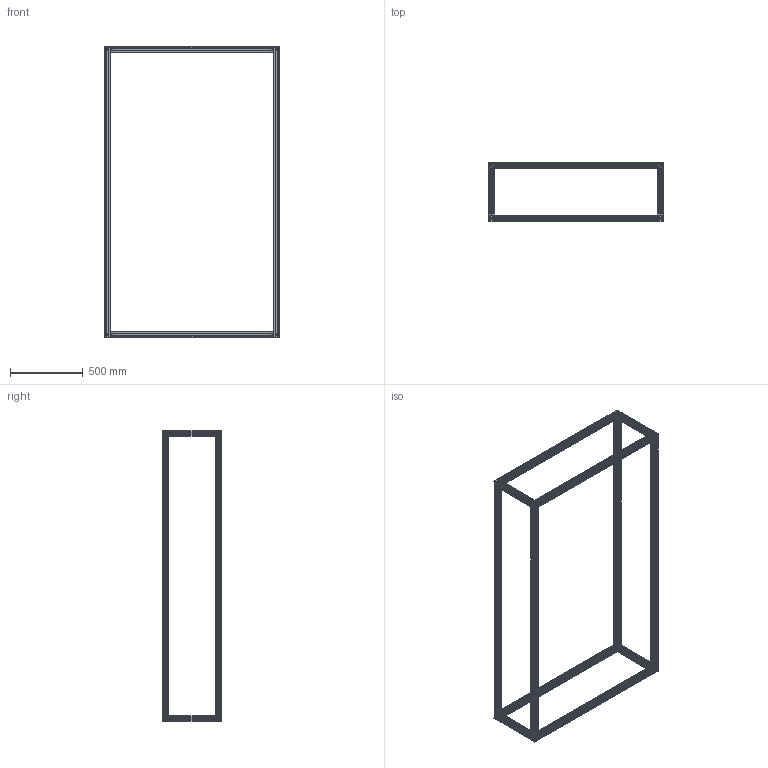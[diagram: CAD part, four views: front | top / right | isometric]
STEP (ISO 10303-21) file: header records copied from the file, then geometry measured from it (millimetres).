
FILE_DESCRIPTION(('STEP AP242'),'1');
FILE_NAME('ALD_BAI_200-120-40 .stp','2026-01-12T11:31:07',(' '),(' '),'Spatial InterOp 3D',' ',' ');
FILE_SCHEMA(('AP242_MANAGED_MODEL_BASED_3D_ENGINEERING_MIM_LF {1 0 10303 442 1 1 4}'));
Length unit declared in the file: millimetre
Products named in the file (15): ALD_BAI_200-120-40 ; 40x40 - noir; Vis centrale S12x30-T50; 25042661A02B-0002; 25042661A02B-0003; 25042661A02B-0001
Assembly tree (32 placements, depth 2):
  ALD_BAI_200-120-40 
    40x40 - noir  x4
    Vis centrale S12x30-T50  x16
    25042661A02B-0002
    25042661A02B-0002
    25042661A02B-0002
    25042661A02B-0002
    25042661A02B-0003
    25042661A02B-0003
    25042661A02B-0001
    25042661A02B-0001
    25042661A02B-0003
    25042661A02B-0003
    25042661A02B-0001
    25042661A02B-0001
Bounding box: 1200 x 400 x 2000 mm (x, y, z)
Volume: 8791799.6 mm3; surface area: 6632564.4 mm2
Topology: 32 solids, 32 shells, 2128 faces, 6064 edges, 3984 vertices
Faces by surface type: plane 1376, cylinder 624, torus 80, cone 32, sphere 16
Full cylindrical faces by diameter (mm): 9.8 x32, 9.9 x16, 12 x16, 19 x16
Entity records: 72106 total; most frequent: CARTESIAN_POINT 10833, ORIENTED_EDGE 9928, DIRECTION 9186, EDGE_CURVE 4964, LINE 4048, VECTOR 4048, VERTEX_POINT 3320, AXIS2_PLACEMENT_3D 2569
